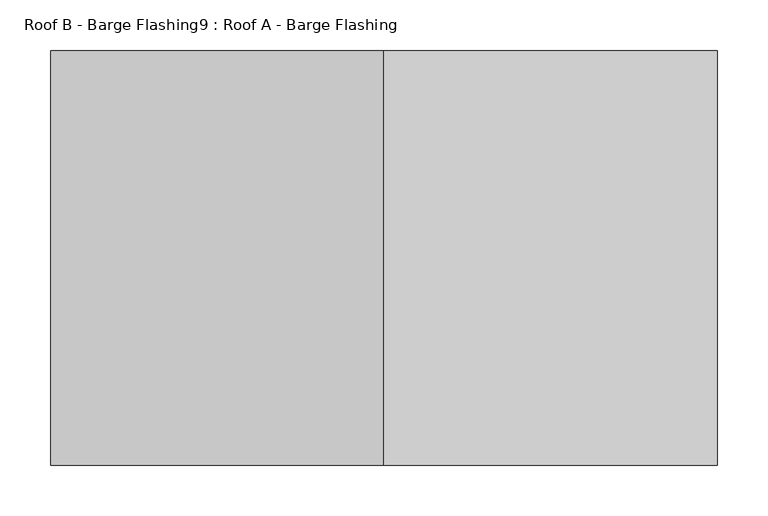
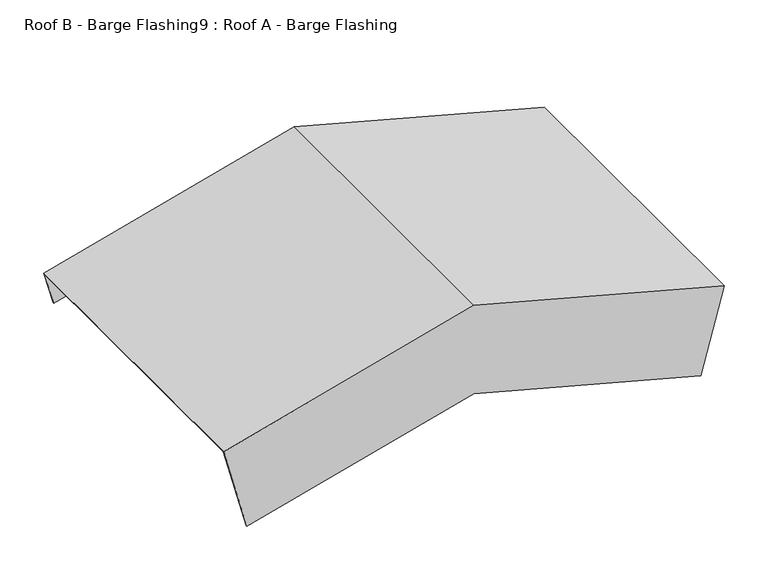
"""IFC4 building model written with IfcOpenShell, lengths in millimetres: proxy geometry, Roof B - Barge Flashing9 : Roof A - Barge Flashing."""

from ifc_helpers import new_model, si_unit, origin, place, context, project, spatial, faceted_brep, source, transform, mapped, element, save


def roof_b_barge_flashing9_roof_a_barge_flashing_b211f0b6(model_context):
    return source(origin(), model_context, "Body", "Brep", [
        faceted_brep([(-22322.5403202, -33891.102608, 4154.0728273), (-22334.5754058, -33891.102608, 4109.1572764), (-22334.5754058, -33890.102608, 4109.1572764), (-22322.2815012, -33890.102608, 4155.0387531), (-22322.2815012, -34300.2372219, 4155.0387531), (-22353.0162628, -34300.2372219, 4040.3350613), (-22353.0162628, -34299.2372219, 4040.3350613), (-22322.5403202, -34299.2372219, 4154.0728273), (-22651.9929037, -33891.102608, 4242.349381), (-22981.4454871, -33891.102608, 4154.0728273), (-22969.4104015, -33891.102608, 4109.1572764), (-22651.9929037, -33891.102608, 4194.2090386), (-22651.9929037, -33890.102608, 4194.2090386), (-22969.4104015, -33890.102608, 4109.1572764), (-22981.7043062, -33890.102608, 4155.0387531), (-22651.9929037, -33890.102608, 4243.3846572), (-22651.9929037, -34300.2372219, 4243.3846572), (-22981.7043062, -34300.2372219, 4155.0387531), (-22950.9695446, -34300.2372219, 4040.3350613), (-22651.9929037, -34300.2372219, 4120.4456108), (-22651.9929037, -34299.2372219, 4120.4456108), (-22950.9695446, -34299.2372219, 4040.3350613), (-22981.4454871, -34299.2372219, 4154.0728273), (-22651.9929037, -34299.2372219, 4242.349381)], [[[0, 1, 2, 3, 4, 5, 6, 7]], [[1, 0, 8, 9, 10, 11]], [[2, 1, 11, 12]], [[3, 2, 12, 13, 14, 15]], [[4, 3, 15, 16]], [[5, 4, 16, 17, 18, 19]], [[7, 6, 20, 21, 22, 23]], [[0, 7, 23, 8]], [[9, 22, 21, 18, 17, 14, 13, 10]], [[12, 11, 10, 13]], [[16, 15, 14, 17]], [[8, 23, 22, 9]], [[6, 5, 19, 20]], [[20, 19, 18, 21]]]),
    ])


if __name__ == "__main__":
    model = new_model("IFC4")
    model_context = context("Model", 3, world=origin())
    ifc_project = project(units=[si_unit("LENGTHUNIT", "METRE", prefix="MILLI")], contexts=[model_context])
    site = spatial("IfcSite", under=ifc_project)
    building = spatial("IfcBuilding", under=site)
    placement = place(None, origin())
    roof_b_barge_flashing9_roof_a_barge_flashing_shape = roof_b_barge_flashing9_roof_a_barge_flashing_b211f0b6(model_context)
    element("IfcBuildingElementProxy", 1, Name="Roof B - Barge Flashing9 : Roof A - Barge Flashing", ObjectType="Roof B - Barge Flashing9 : Roof A - Barge Flashing", at=placement, inside=building, context=model_context, shape_type="MappedRepresentation", body=[
        mapped(roof_b_barge_flashing9_roof_a_barge_flashing_shape, transform((0.0, 0.0, 0.0), x_axis=(1.0, 0.0, 0.0), y_axis=(0.0, 1.0, 0.0), z_axis=(0.0, 0.0, 1.0))),
    ])
    save(model, "model.ifc")
